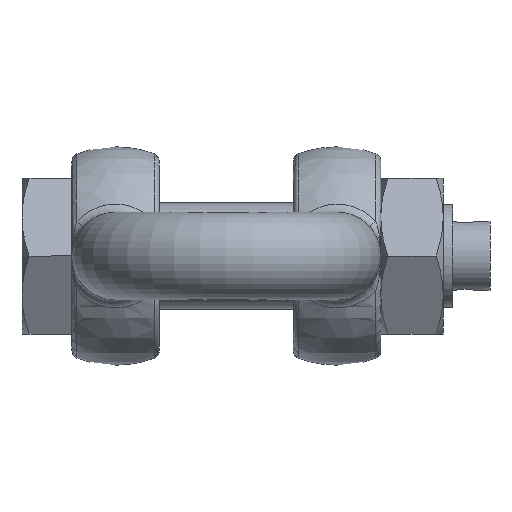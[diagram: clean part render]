
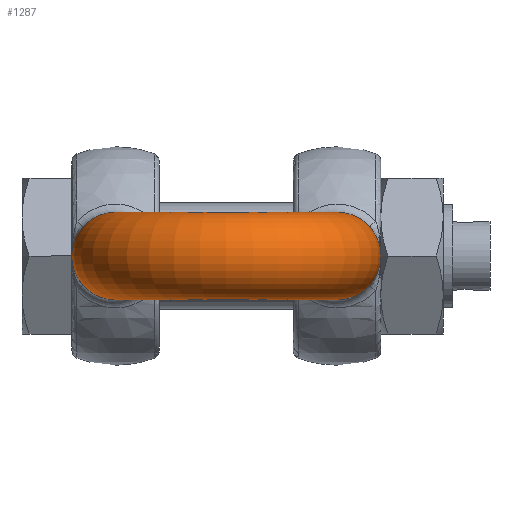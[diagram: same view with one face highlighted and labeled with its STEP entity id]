
A CAD part, front view. The second image highlights one B-rep face of the part: STEP entity #1287.
In plain terms, the highlighted toroidal (fillet/blend) face has major radius 35.5 mm and minor radius 14 mm.
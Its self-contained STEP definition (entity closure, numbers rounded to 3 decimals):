
#123=TOROIDAL_SURFACE('',#1460,35.5,14.);
#234=FACE_OUTER_BOUND('',#323,.T.);
#323=EDGE_LOOP('',(#1029,#1030,#1031,#1032,#1033,#1034));
#486=CIRCLE('',#1458,14.);
#487=CIRCLE('',#1459,14.);
#488=CIRCLE('',#1461,21.5);
#489=CIRCLE('',#1462,14.);
#490=CIRCLE('',#1463,14.);
#579=VERTEX_POINT('',#2910);
#580=VERTEX_POINT('',#2912);
#581=VERTEX_POINT('',#2916);
#582=VERTEX_POINT('',#2918);
#739=EDGE_CURVE('',#579,#580,#486,.T.);
#740=EDGE_CURVE('',#580,#579,#487,.T.);
#741=EDGE_CURVE('',#580,#581,#488,.T.);
#742=EDGE_CURVE('',#581,#582,#489,.T.);
#743=EDGE_CURVE('',#582,#581,#490,.T.);
#1029=ORIENTED_EDGE('',*,*,#740,.F.);
#1030=ORIENTED_EDGE('',*,*,#741,.T.);
#1031=ORIENTED_EDGE('',*,*,#742,.T.);
#1032=ORIENTED_EDGE('',*,*,#743,.T.);
#1033=ORIENTED_EDGE('',*,*,#741,.F.);
#1034=ORIENTED_EDGE('',*,*,#739,.F.);
#1287=ADVANCED_FACE('',(#234),#123,.T.);
#1458=AXIS2_PLACEMENT_3D('',#2913,#1691,#1692);
#1459=AXIS2_PLACEMENT_3D('',#2914,#1693,#1694);
#1460=AXIS2_PLACEMENT_3D('',#2915,#1695,#1696);
#1461=AXIS2_PLACEMENT_3D('',#2917,#1697,#1698);
#1462=AXIS2_PLACEMENT_3D('',#2919,#1699,#1700);
#1463=AXIS2_PLACEMENT_3D('',#2920,#1701,#1702);
#1691=DIRECTION('center_axis',(0.,1.,0.));
#1692=DIRECTION('ref_axis',(1.,0.,0.));
#1693=DIRECTION('center_axis',(0.,1.,0.));
#1694=DIRECTION('ref_axis',(1.,0.,0.));
#1695=DIRECTION('center_axis',(0.,0.,-1.));
#1696=DIRECTION('ref_axis',(-1.,0.,0.));
#1697=DIRECTION('center_axis',(0.,0.,1.));
#1698=DIRECTION('ref_axis',(-1.,0.,0.));
#1699=DIRECTION('center_axis',(0.,-1.,0.));
#1700=DIRECTION('ref_axis',(-1.,0.,0.));
#1701=DIRECTION('center_axis',(0.,-1.,0.));
#1702=DIRECTION('ref_axis',(-1.,0.,0.));
#2910=CARTESIAN_POINT('',(-49.5,49.5,0.));
#2912=CARTESIAN_POINT('',(-21.5,49.5,0.));
#2913=CARTESIAN_POINT('Origin',(-35.5,49.5,0.));
#2914=CARTESIAN_POINT('Origin',(-35.5,49.5,0.));
#2915=CARTESIAN_POINT('Origin',(0.,49.5,0.));
#2916=CARTESIAN_POINT('',(21.5,49.5,0.));
#2917=CARTESIAN_POINT('Origin',(0.,49.5,0.));
#2918=CARTESIAN_POINT('',(49.5,49.5,0.));
#2919=CARTESIAN_POINT('Origin',(35.5,49.5,0.));
#2920=CARTESIAN_POINT('Origin',(35.5,49.5,0.));
